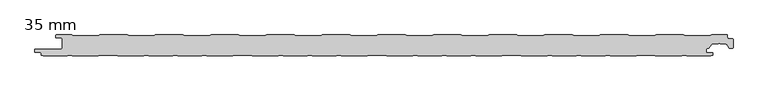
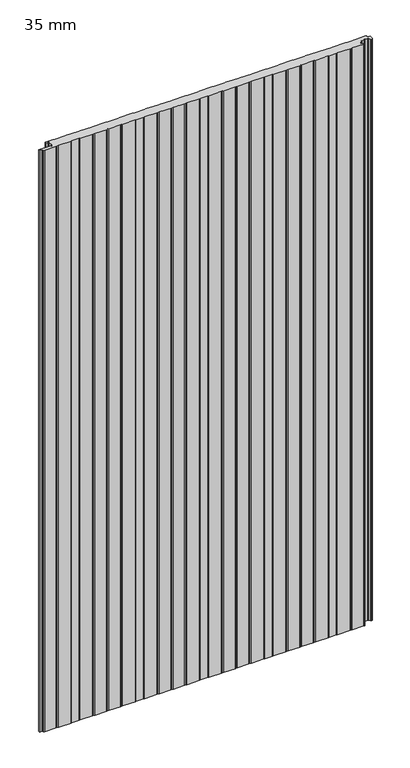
"""IFC4 building model written with IfcOpenShell, lengths in millimetres: plate geometry, HIANSA PANEL - H20.F02.002-PANELES DE FACHADA VERTICAL - PANEL PERFILADO - Panel de Muro Cortina : 35 mm."""

from ifc_helpers import new_model, si_unit, frame, origin, place, context, project, spatial, polyline, circle_curve, source, transform, mapped, element, save
from ifc_brep_helpers import plane_surface, cylinder_surface, revolved_surface, advanced_brep


def plate_35_mm_58eb28ae(model_context):
    return source(origin(), model_context, "Body", "AdvancedBrep", [
        advanced_brep(
        [(538.9050596, -33.8752798, 2100.0), (539.9655098, -32.5170803, 2100.0), (539.9655098, -29.8776596, 2100.0), (530.7999998, -29.8776596, 2100.0), (529.2999998, -28.3776596, 2100.0), (529.2999998, -24.1276596, 2100.0), (530.7999998, -22.6276596, 2100.0), (532.401303, -22.6276596, 2100.0), (533.630031, -21.9880243, 2100.0), (537.8715505, -15.9305067, 2100.0), (539.5098546, -15.0776596, 2100.0), (548.6062273, -15.0776596, 2100.0), (549.7990477, -14.3889845, 2100.0), (550.7990477, -14.3889845, 2100.0), (551.991868, -15.0776596, 2100.0), (561.0896683, -15.0776596, 2100.0), (562.7279724, -15.9305067, 2100.0), (566.9694918, -21.9880243, 2100.0), (568.1982199, -22.6276596, 2100.0), (571.5805695, -22.6276596, 2100.0), (573.0805695, -21.1276596, 2100.0), (573.0810464, -7.7494039, 2100.0), (572.0803311, -6.7486887, 2100.0), (565.9337882, -6.7486887, 2100.0), (563.9323512, -4.7472517, 2100.0), (563.9323512, -1.4941037, 2100.0), (562.9382476, -0.5, 2100.0), (538.0627765, -0.5, 2100.0), (535.0504226, -1.5005169, 2100.0), (494.888145, -1.5005169, 2100.0), (491.8865943, -0.5, 2100.0), (447.0519733, -0.5, 2100.0), (444.0504226, -1.5005169, 2100.0), (403.888145, -1.5005169, 2100.0), (400.8865943, -0.5, 2100.0), (356.0519733, -0.5, 2100.0), (353.0504226, -1.5005169, 2100.0), (312.888145, -1.5005169, 2100.0), (309.8865943, -0.5, 2100.0), (265.0519733, -0.5, 2100.0), (262.0504226, -1.5005169, 2100.0), (221.888145, -1.5005169, 2100.0), (218.8865943, -0.5, 2100.0), (174.0519733, -0.5, 2100.0), (171.0504226, -1.5005169, 2100.0), (130.888145, -1.5005169, 2100.0), (127.8865943, -0.5, 2100.0), (83.0519733, -0.5, 2100.0), (80.0504226, -1.5005169, 2100.0), (39.888145, -1.5005169, 2100.0), (36.8865943, -0.5, 2100.0), (-7.9480267, -0.5, 2100.0), (-10.9495774, -1.5005169, 2100.0), (-51.111855, -1.5005169, 2100.0), (-54.1134057, -0.5, 2100.0), (-98.9480267, -0.5, 2100.0), (-101.9495774, -1.5005169, 2100.0), (-142.111855, -1.5005169, 2100.0), (-145.1134057, -0.5, 2100.0), (-189.9480267, -0.5, 2100.0), (-192.9495774, -1.5005169, 2100.0), (-233.111855, -1.5005169, 2100.0), (-236.1134057, -0.5, 2100.0), (-280.9480267, -0.5, 2100.0), (-283.9495774, -1.5005169, 2100.0), (-324.111855, -1.5005169, 2100.0), (-327.1134057, -0.5, 2100.0), (-371.9480267, -0.5, 2100.0), (-374.9495774, -1.5005169, 2100.0), (-415.111855, -1.5005169, 2100.0), (-418.1134057, -0.5, 2100.0), (-462.9480267, -0.5, 2100.0), (-465.9495774, -1.5005169, 2100.0), (-506.111855, -1.5005169, 2100.0), (-509.1037329, -0.5, 2100.0), (-534.0319041, -0.5, 2100.0), (-535.0319599, -1.5000258, 2100.0), (-535.0322739, -4.4999967, 2100.0), (-534.0322682, -5.5000043, 2100.0), (-526.4181879, -5.5004096, 2100.0), (-524.3789536, -7.5396439, 2100.0), (-524.3789536, -21.3470846, 2100.0), (-526.9158188, -23.8839497, 2100.0), (-569.2000002, -23.8839497, 2100.0), (-569.2000002, -28.6276596, 2100.0), (-560.5344902, -28.6276596, 2100.0), (-559.0344903, -30.1276596, 2100.0), (-559.0344903, -32.5178943, 2100.0), (-557.9748297, -33.8750825, 2100.0), (-555.4751594, -34.5, 2100.0), (-516.3760428, -34.5, 2100.0), (-512.31449, -33.4846118, 2100.0), (-508.2529372, -34.5, 2100.0), (-465.1734067, -34.5, 2100.0), (-462.1734067, -33.5, 2100.0), (-436.899129, -33.5, 2100.0), (-433.899129, -34.5, 2100.0), (-390.8195984, -34.5, 2100.0), (-386.7580456, -33.4846118, 2100.0), (-382.6964928, -34.5, 2100.0), (-343.5973762, -34.5, 2100.0), (-339.5358234, -33.4846118, 2100.0), (-335.4742706, -34.5, 2100.0), (-296.375154, -34.5, 2100.0), (-292.3136012, -33.4846118, 2100.0), (-288.2520484, -34.5, 2100.0), (-245.1725179, -34.5, 2100.0), (-242.1725179, -33.5, 2100.0), (-216.8982402, -33.5, 2100.0), (-213.8982402, -34.5, 2100.0), (-170.8187096, -34.5, 2100.0), (-166.7571568, -33.4846118, 2100.0), (-162.695604, -34.5, 2100.0), (-123.5964874, -34.5, 2100.0), (-119.5349346, -33.4846118, 2100.0), (-115.4733818, -34.5, 2100.0), (-76.3742652, -34.5, 2100.0), (-72.3127124, -33.4846118, 2100.0), (-68.2511596, -34.5, 2100.0), (-25.1716291, -34.5, 2100.0), (-22.1716291, -33.5, 2100.0), (3.1026486, -33.5, 2100.0), (6.1026486, -34.5, 2100.0), (49.1821792, -34.5, 2100.0), (53.243732, -33.4846118, 2100.0), (57.3052848, -34.5, 2100.0), (96.4044014, -34.5, 2100.0), (100.4659542, -33.4846118, 2100.0), (104.527507, -34.5, 2100.0), (143.6266236, -34.5, 2100.0), (147.6881764, -33.4846118, 2100.0), (151.7497292, -34.5, 2100.0), (194.8292597, -34.5, 2100.0), (197.8292597, -33.5, 2100.0), (223.1035374, -33.5, 2100.0), (226.1035374, -34.5, 2100.0), (269.183068, -34.5, 2100.0), (273.2446208, -33.4846118, 2100.0), (277.3061736, -34.5, 2100.0), (316.4052902, -34.5, 2100.0), (320.466843, -33.4846118, 2100.0), (324.5283958, -34.5, 2100.0), (363.6275124, -34.5, 2100.0), (367.6890652, -33.4846118, 2100.0), (371.750618, -34.5, 2100.0), (414.8301485, -34.5, 2100.0), (417.8301485, -33.5, 2100.0), (443.1044262, -33.5, 2100.0), (446.1044262, -34.5, 2100.0), (489.1839568, -34.5, 2100.0), (493.2455096, -33.4846118, 2100.0), (497.3070624, -34.5, 2100.0), (536.406179, -34.5, 2100.0), (538.9050596, -33.8752798, 0.0), (536.406179, -34.5, 0.0), (497.3070624, -34.5, 0.0), (493.2455096, -33.4846118, 0.0), (489.1839568, -34.5, 0.0), (446.1044262, -34.5, 0.0), (443.1044262, -33.5, 0.0), (417.8301485, -33.5, 0.0), (414.8301485, -34.5, 0.0), (371.750618, -34.5, 0.0), (367.6890652, -33.4846118, 0.0), (363.6275124, -34.5, 0.0), (324.5283958, -34.5, 0.0), (320.466843, -33.4846118, 0.0), (316.4052902, -34.5, 0.0), (277.3061736, -34.5, 0.0), (273.2446208, -33.4846118, 0.0), (269.183068, -34.5, 0.0), (226.1035374, -34.5, 0.0), (223.1035374, -33.5, 0.0), (197.8292597, -33.5, 0.0), (194.8292597, -34.5, 0.0), (151.7497292, -34.5, 0.0), (147.6881764, -33.4846118, 0.0), (143.6266236, -34.5, 0.0), (104.527507, -34.5, 0.0), (100.4659542, -33.4846118, 0.0), (96.4044014, -34.5, 0.0), (57.3052848, -34.5, 0.0), (53.243732, -33.4846118, 0.0), (49.1821792, -34.5, 0.0), (6.1026486, -34.5, 0.0), (3.1026486, -33.5, 0.0), (-22.1716291, -33.5, 0.0), (-25.1716291, -34.5, 0.0), (-68.2511596, -34.5, 0.0), (-72.3127124, -33.4846118, 0.0), (-76.3742652, -34.5, 0.0), (-115.4733818, -34.5, 0.0), (-119.5349346, -33.4846118, 0.0), (-123.5964874, -34.5, 0.0), (-162.695604, -34.5, 0.0), (-166.7571568, -33.4846118, 0.0), (-170.8187096, -34.5, 0.0), (-213.8982402, -34.5, 0.0), (-216.8982402, -33.5, 0.0), (-242.1725179, -33.5, 0.0), (-245.1725179, -34.5, 0.0), (-288.2520484, -34.5, 0.0), (-292.3136012, -33.4846118, 0.0), (-296.375154, -34.5, 0.0), (-335.4742706, -34.5, 0.0), (-339.5358234, -33.4846118, 0.0), (-343.5973762, -34.5, 0.0), (-382.6964928, -34.5, 0.0), (-386.7580456, -33.4846118, 0.0), (-390.8195984, -34.5, 0.0), (-433.899129, -34.5, 0.0), (-436.899129, -33.5, 0.0), (-462.1734067, -33.5, 0.0), (-465.1734067, -34.5, 0.0), (-508.2529372, -34.5, 0.0), (-512.31449, -33.4846118, 0.0), (-516.3760428, -34.5, 0.0), (-555.4751594, -34.5, 0.0), (-557.9748297, -33.8750825, 0.0), (-559.0344903, -32.5178943, 0.0), (-559.0344903, -30.1276596, 0.0), (-560.5344902, -28.6276596, 0.0), (-569.2000002, -28.6276596, 0.0), (-569.2000002, -23.8839497, 0.0), (-526.9158188, -23.8839497, 0.0), (-524.3789536, -21.3470846, 0.0), (-524.3789536, -7.5396439, 0.0), (-526.4181879, -5.5004096, 0.0), (-534.0322682, -5.5004096, 0.0), (-535.0322739, -4.4999967, 0.0), (-535.0319599, -1.5000258, 0.0), (-534.0319041, -0.5, 0.0), (-509.1037329, -0.5, 0.0), (-506.111855, -1.5005169, 0.0), (-465.9495774, -1.5005169, 0.0), (-462.9480267, -0.5, 0.0), (-418.1134057, -0.5, 0.0), (-415.111855, -1.5005169, 0.0), (-374.9495774, -1.5005169, 0.0), (-371.9480267, -0.5, 0.0), (-327.1134057, -0.5, 0.0), (-324.111855, -1.5005169, 0.0), (-283.9495774, -1.5005169, 0.0), (-280.9480267, -0.5, 0.0), (-236.1134057, -0.5, 0.0), (-233.111855, -1.5005169, 0.0), (-192.9495774, -1.5005169, 0.0), (-189.9480267, -0.5, 0.0), (-145.1134057, -0.5, 0.0), (-142.111855, -1.5005169, 0.0), (-101.9495774, -1.5005169, 0.0), (-98.9480267, -0.5, 0.0), (-54.1134057, -0.5, 0.0), (-51.111855, -1.5005169, 0.0), (-10.9495774, -1.5005169, 0.0), (-7.9480267, -0.5, 0.0), (36.8865943, -0.5, 0.0), (39.888145, -1.5005169, 0.0), (80.0504226, -1.5005169, 0.0), (83.0519733, -0.5, 0.0), (127.8865943, -0.5, 0.0), (130.888145, -1.5005169, 0.0), (171.0504226, -1.5005169, 0.0), (174.0519733, -0.5, 0.0), (218.8865943, -0.5, 0.0), (221.888145, -1.5005169, 0.0), (262.0504226, -1.5005169, 0.0), (265.0519733, -0.5, 0.0), (309.8865943, -0.5, 0.0), (312.888145, -1.5005169, 0.0), (353.0504226, -1.5005169, 0.0), (356.0519733, -0.5, 0.0), (400.8865943, -0.5, 0.0), (403.888145, -1.5005169, 0.0), (444.0504226, -1.5005169, 0.0), (447.0519733, -0.5, 0.0), (491.8865943, -0.5, 0.0), (494.888145, -1.5005169, 0.0), (535.0504226, -1.5005169, 0.0), (538.0627765, -0.5, 0.0), (562.9382476, -0.5, 0.0), (563.9323512, -1.4941037, 0.0), (563.9323512, -4.7472517, 0.0), (565.9337882, -6.7486887, 0.0), (572.0803311, -6.7486887, 0.0), (573.0810464, -7.7494039, 0.0), (573.0810464, -21.1276596, 0.0), (571.5805695, -22.6276596, 0.0), (568.1982199, -22.6276596, 0.0), (566.9694918, -21.9880243, 0.0), (562.7279724, -15.9305067, 0.0), (561.0896683, -15.0776596, 0.0), (551.991868, -15.0776596, 0.0), (550.7990477, -14.3889845, 0.0), (549.7990477, -14.3889845, 0.0), (548.6062273, -15.0776596, 0.0), (539.5098546, -15.0776596, 0.0), (537.8715505, -15.9305067, 0.0), (533.630031, -21.9880243, 0.0), (532.401303, -22.6276596, 0.0), (530.7999998, -22.6276596, 0.0), (529.2999998, -24.1276596, 0.0), (529.2999998, -28.3776596, 0.0), (530.7999998, -29.8776596, 0.0), (539.9655098, -29.8776596, 0.0), (539.9655098, -32.5170803, 0.0)],
        [
            (0, 1, circle_curve(frame((538.5655098, -32.5170803, 2100.0), z_axis=(0.0, 0.0, 1.0), x_axis=(1.0, 0.0, 0.0)), 1.4)),
            (1, 2),
            (2, 3),
            (3, 4, circle_curve(frame((530.7999998, -28.3776596, 2100.0), z_axis=(0.0, 0.0, -1.0), x_axis=(1.0, 0.0, 0.0)), 1.5)),
            (4, 5),
            (5, 6, circle_curve(frame((530.7999998, -24.1276596, 2100.0), z_axis=(0.0, 0.0, -1.0), x_axis=(1.0, 0.0, 0.0)), 1.5)),
            (6, 7),
            (7, 8, circle_curve(frame((532.401303, -21.1276596, 2100.0), z_axis=(0.0, 0.0, 1.0), x_axis=(1.0, 0.0, 0.0)), 1.5)),
            (8, 9),
            (9, 10, circle_curve(frame((539.5098546, -17.0776596, 2100.0), z_axis=(0.0, 0.0, -1.0), x_axis=(1.0, 0.0, 0.0)), 2.0)),
            (10, 11),
            (11, 12),
            (12, 13, circle_curve(frame((550.2990477, -15.2550099, 2100.0), z_axis=(0.0, 0.0, -1.0), x_axis=(1.0, 0.0, 0.0)), 1.0)),
            (13, 14),
            (14, 15),
            (15, 16, circle_curve(frame((561.0896683, -17.0776596, 2100.0), z_axis=(0.0, 0.0, -1.0), x_axis=(1.0, 0.0, 0.0)), 2.0)),
            (16, 17),
            (17, 18, circle_curve(frame((568.1982199, -21.1276596, 2100.0), z_axis=(0.0, 0.0, 1.0), x_axis=(1.0, 0.0, 0.0)), 1.5)),
            (18, 19),
            (19, 20, circle_curve(frame((571.5805695, -21.1276596, 2100.0), z_axis=(0.0, 0.0, 1.0), x_axis=(1.0, 0.0, 0.0)), 1.5)),
            (20, 21),
            (21, 22, circle_curve(frame((572.0803311, -7.7494039, 2100.0), z_axis=(0.0, 0.0, 1.0), x_axis=(1.0, 0.0, 0.0)), 1.0007153)),
            (22, 23),
            (23, 24, circle_curve(frame((565.9337882, -4.7472517, 2100.0), z_axis=(0.0, 0.0, -1.0), x_axis=(1.0, 0.0, 0.0)), 2.0014369)),
            (24, 25),
            (25, 26, circle_curve(frame((562.9382476, -1.4941037, 2100.0), z_axis=(0.0, 0.0, 1.0), x_axis=(1.0, 0.0, 0.0)), 0.9941037)),
            (26, 27),
            (27, 28),
            (28, 29),
            (29, 30),
            (30, 31),
            (31, 32),
            (32, 33),
            (33, 34),
            (34, 35),
            (35, 36),
            (36, 37),
            (37, 38),
            (38, 39),
            (39, 40),
            (40, 41),
            (41, 42),
            (42, 43),
            (43, 44),
            (44, 45),
            (45, 46),
            (46, 47),
            (47, 48),
            (48, 49),
            (49, 50),
            (50, 51),
            (51, 52),
            (52, 53),
            (53, 54),
            (54, 55),
            (55, 56),
            (56, 57),
            (57, 58),
            (58, 59),
            (59, 60),
            (60, 61),
            (61, 62),
            (62, 63),
            (63, 64),
            (64, 65),
            (65, 66),
            (66, 67),
            (67, 68),
            (68, 69),
            (69, 70),
            (70, 71),
            (71, 72),
            (72, 73),
            (73, 74),
            (74, 75),
            (75, 76, circle_curve(frame((-534.0319041, -1.5000558, 2100.0), z_axis=(0.0, 0.0, 1.0), x_axis=(1.0, 0.0, 0.0)), 1.0000558)),
            (76, 77),
            (77, 78, circle_curve(frame((-534.0322682, -4.4999986, 2100.0), z_axis=(0.0, 0.0, 1.0), x_axis=(1.0, 0.0, 0.0)), 1.0000057)),
            (78, 79),
            (79, 80, circle_curve(frame((-526.4181879, -7.5396439, 2100.0), z_axis=(0.0, 0.0, -1.0), x_axis=(1.0, 0.0, 0.0)), 2.0392343)),
            (80, 81),
            (81, 82, circle_curve(frame((-526.9158188, -21.3470846, 2100.0), z_axis=(0.0, 0.0, -1.0), x_axis=(1.0, 0.0, 0.0)), 2.5368651)),
            (82, 83),
            (83, 84),
            (84, 85),
            (85, 86, circle_curve(frame((-560.5344902, -30.1276596, 2100.0), z_axis=(0.0, 0.0, -1.0), x_axis=(1.0, 0.0, 0.0)), 1.5)),
            (86, 87),
            (87, 88, circle_curve(frame((-557.6355327, -32.5178943, 2100.0), z_axis=(0.0, 0.0, 1.0), x_axis=(1.0, 0.0, 0.0)), 1.3989576)),
            (88, 89),
            (89, 90),
            (90, 91),
            (91, 92),
            (92, 93),
            (93, 94),
            (94, 95),
            (95, 96),
            (96, 97),
            (97, 98),
            (98, 99),
            (99, 100),
            (100, 101),
            (101, 102),
            (102, 103),
            (103, 104),
            (104, 105),
            (105, 106),
            (106, 107),
            (107, 108),
            (108, 109),
            (109, 110),
            (110, 111),
            (111, 112),
            (112, 113),
            (113, 114),
            (114, 115),
            (115, 116),
            (116, 117),
            (117, 118),
            (118, 119),
            (119, 120),
            (120, 121),
            (121, 122),
            (122, 123),
            (123, 124),
            (124, 125),
            (125, 126),
            (126, 127),
            (127, 128),
            (128, 129),
            (129, 130),
            (130, 131),
            (131, 132),
            (132, 133),
            (133, 134),
            (134, 135),
            (135, 136),
            (136, 137),
            (137, 138),
            (138, 139),
            (139, 140),
            (140, 141),
            (141, 142),
            (142, 143),
            (143, 144),
            (144, 145),
            (145, 146),
            (146, 147),
            (147, 148),
            (148, 149),
            (149, 150),
            (150, 151),
            (151, 152),
            (152, 0),
            (153, 154),
            (154, 155),
            (155, 156),
            (156, 157),
            (157, 158),
            (158, 159),
            (159, 160),
            (160, 161),
            (161, 162),
            (162, 163),
            (163, 164),
            (164, 165),
            (165, 166),
            (166, 167),
            (167, 168),
            (168, 169),
            (169, 170),
            (170, 171),
            (171, 172),
            (172, 173),
            (173, 174),
            (174, 175),
            (175, 176),
            (176, 177),
            (177, 178),
            (178, 179),
            (179, 180),
            (180, 181),
            (181, 182),
            (182, 183),
            (183, 184),
            (184, 185),
            (185, 186),
            (186, 187),
            (187, 188),
            (188, 189),
            (189, 190),
            (190, 191),
            (191, 192),
            (192, 193),
            (193, 194),
            (194, 195),
            (195, 196),
            (196, 197),
            (197, 198),
            (198, 199),
            (199, 200),
            (200, 201),
            (201, 202),
            (202, 203),
            (203, 204),
            (204, 205),
            (205, 206),
            (206, 207),
            (207, 208),
            (208, 209),
            (209, 210),
            (210, 211),
            (211, 212),
            (212, 213),
            (213, 214),
            (214, 215),
            (215, 216),
            (216, 217),
            (217, 218),
            (218, 219, circle_curve(frame((-557.6355327, -32.5178943, 0.0), z_axis=(0.0, 0.0, -1.0), x_axis=(1.0, 0.0, 0.0)), 1.3989576)),
            (219, 220),
            (220, 221, circle_curve(frame((-560.5344902, -30.1276596, 0.0), z_axis=(0.0, 0.0, 1.0), x_axis=(1.0, 0.0, 0.0)), 1.5)),
            (221, 222),
            (222, 223),
            (223, 224),
            (224, 225, circle_curve(frame((-526.9158188, -21.3470846, 0.0), z_axis=(0.0, 0.0, 1.0), x_axis=(1.0, 0.0, 0.0)), 2.5368651)),
            (225, 226),
            (226, 227, circle_curve(frame((-526.4181879, -7.5396439, 0.0), z_axis=(0.0, 0.0, 1.0), x_axis=(1.0, 0.0, 0.0)), 2.0392343)),
            (227, 228),
            (228, 229, circle_curve(frame((-534.0322682, -4.4999986, 0.0), z_axis=(0.0, 0.0, -1.0), x_axis=(1.0, 0.0, 0.0)), 1.0000057)),
            (229, 230),
            (230, 231, circle_curve(frame((-534.0319041, -1.5000558, 0.0), z_axis=(0.0, 0.0, -1.0), x_axis=(1.0, 0.0, 0.0)), 1.0000558)),
            (231, 232),
            (232, 233),
            (233, 234),
            (234, 235),
            (235, 236),
            (236, 237),
            (237, 238),
            (238, 239),
            (239, 240),
            (240, 241),
            (241, 242),
            (242, 243),
            (243, 244),
            (244, 245),
            (245, 246),
            (246, 247),
            (247, 248),
            (248, 249),
            (249, 250),
            (250, 251),
            (251, 252),
            (252, 253),
            (253, 254),
            (254, 255),
            (255, 256),
            (256, 257),
            (257, 258),
            (258, 259),
            (259, 260),
            (260, 261),
            (261, 262),
            (262, 263),
            (263, 264),
            (264, 265),
            (265, 266),
            (266, 267),
            (267, 268),
            (268, 269),
            (269, 270),
            (270, 271),
            (271, 272),
            (272, 273),
            (273, 274),
            (274, 275),
            (275, 276),
            (276, 277),
            (277, 278),
            (278, 279),
            (279, 280),
            (280, 281, circle_curve(frame((562.9382476, -1.4941037, 0.0), z_axis=(0.0, 0.0, -1.0), x_axis=(1.0, 0.0, 0.0)), 0.9941037)),
            (281, 282),
            (282, 283, circle_curve(frame((565.9337882, -4.7472517, 0.0), z_axis=(0.0, 0.0, 1.0), x_axis=(1.0, 0.0, 0.0)), 2.0014369)),
            (283, 284),
            (284, 285, circle_curve(frame((572.0803311, -7.7494039, 0.0), z_axis=(0.0, 0.0, -1.0), x_axis=(1.0, 0.0, 0.0)), 1.0007153)),
            (285, 286),
            (286, 287, circle_curve(frame((571.5805695, -21.1276596, 0.0), z_axis=(0.0, 0.0, -1.0), x_axis=(1.0, 0.0, 0.0)), 1.5)),
            (287, 288),
            (288, 289, circle_curve(frame((568.1982199, -21.1276596, 0.0), z_axis=(0.0, 0.0, -1.0), x_axis=(1.0, 0.0, 0.0)), 1.5)),
            (289, 290),
            (290, 291, circle_curve(frame((561.0896683, -17.0776596, 0.0), z_axis=(0.0, 0.0, 1.0), x_axis=(1.0, 0.0, 0.0)), 2.0)),
            (291, 292),
            (292, 293),
            (293, 294, circle_curve(frame((550.2990477, -15.2550099, 0.0), z_axis=(0.0, 0.0, 1.0), x_axis=(1.0, 0.0, 0.0)), 1.0)),
            (294, 295),
            (295, 296),
            (296, 297, circle_curve(frame((539.5098546, -17.0776596, 0.0), z_axis=(0.0, 0.0, 1.0), x_axis=(1.0, 0.0, 0.0)), 2.0)),
            (297, 298),
            (298, 299, circle_curve(frame((532.401303, -21.1276596, 0.0), z_axis=(0.0, 0.0, -1.0), x_axis=(1.0, 0.0, 0.0)), 1.5)),
            (299, 300),
            (300, 301, circle_curve(frame((530.7999998, -24.1276596, 0.0), z_axis=(0.0, 0.0, 1.0), x_axis=(1.0, 0.0, 0.0)), 1.5)),
            (301, 302),
            (302, 303, circle_curve(frame((530.7999998, -28.3776596, 0.0), z_axis=(0.0, 0.0, 1.0), x_axis=(1.0, 0.0, 0.0)), 1.5)),
            (303, 304),
            (304, 305),
            (305, 153, circle_curve(frame((538.5655098, -32.5170803, 0.0), z_axis=(0.0, 0.0, -1.0), x_axis=(1.0, 0.0, 0.0)), 1.4)),
            (88, 218),
            (217, 89),
            (87, 219),
            (86, 220),
            (85, 221),
            (84, 222),
            (83, 223),
            (82, 224),
            (81, 225),
            (80, 226),
            (79, 227),
            (78, 228),
            (25, 281),
            (280, 26),
            (24, 282),
            (23, 283),
            (21, 285),
            (284, 22),
            (20, 286),
            (19, 287),
            (18, 288),
            (17, 289),
            (16, 290),
            (15, 291),
            (9, 297),
            (296, 10),
            (8, 298),
            (7, 299),
            (6, 300),
            (5, 301),
            (4, 302),
            (3, 303),
            (2, 304),
            (1, 305),
            (0, 153),
            (152, 154),
            (151, 155),
            (150, 156),
            (149, 157),
            (148, 158),
            (147, 159),
            (146, 160),
            (145, 161),
            (144, 162),
            (143, 163),
            (142, 164),
            (141, 165),
            (140, 166),
            (139, 167),
            (138, 168),
            (137, 169),
            (136, 170),
            (135, 171),
            (134, 172),
            (133, 173),
            (132, 174),
            (131, 175),
            (130, 176),
            (129, 177),
            (128, 178),
            (127, 179),
            (126, 180),
            (125, 181),
            (124, 182),
            (123, 183),
            (122, 184),
            (121, 185),
            (120, 186),
            (119, 187),
            (118, 188),
            (117, 189),
            (116, 190),
            (115, 191),
            (114, 192),
            (113, 193),
            (112, 194),
            (111, 195),
            (110, 196),
            (109, 197),
            (108, 198),
            (107, 199),
            (106, 200),
            (105, 201),
            (104, 202),
            (103, 203),
            (102, 204),
            (101, 205),
            (100, 206),
            (99, 207),
            (98, 208),
            (97, 209),
            (96, 210),
            (95, 211),
            (94, 212),
            (93, 213),
            (92, 214),
            (91, 215),
            (90, 216),
            (74, 232),
            (231, 75),
            (73, 233),
            (72, 234),
            (71, 235),
            (70, 236),
            (69, 237),
            (68, 238),
            (67, 239),
            (66, 240),
            (65, 241),
            (64, 242),
            (63, 243),
            (62, 244),
            (61, 245),
            (60, 246),
            (59, 247),
            (58, 248),
            (57, 249),
            (56, 250),
            (55, 251),
            (54, 252),
            (53, 253),
            (52, 254),
            (51, 255),
            (50, 256),
            (49, 257),
            (48, 258),
            (47, 259),
            (46, 260),
            (45, 261),
            (44, 262),
            (43, 263),
            (42, 264),
            (41, 265),
            (40, 266),
            (39, 267),
            (38, 268),
            (37, 269),
            (36, 270),
            (35, 271),
            (34, 272),
            (33, 273),
            (32, 274),
            (31, 275),
            (30, 276),
            (29, 277),
            (28, 278),
            (27, 279),
            (14, 292),
            (13, 293),
            (12, 294),
            (11, 295),
            (77, 229),
            (76, 230),
        ],
        [
            plane_surface(frame((-550.0000002, 0.0, 2100.0), z_axis=(0.0, 0.0, 1.0), x_axis=(-1.0, 0.0, 0.0))),
            plane_surface(frame((-550.0000002, 0.0, 0.0), z_axis=(0.0, 0.0, -1.0), x_axis=(-1.0, 0.0, 0.0))),
            plane_surface(frame((-555.4751594, -34.5, 2100.0), z_axis=(-0.2425356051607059, -0.9701425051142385, 0.0), x_axis=(0.0, 0.0, -1.0))),
            cylinder_surface(frame((-557.6355327, -32.5178943, 2100.0), z_axis=(0.0, 0.0, 1.0), x_axis=(1.0, 0.0, 0.0)), 1.3989576),
            plane_surface(frame((-559.0344903, -32.5178943, 2100.0), z_axis=(-1.0, 0.0, 0.0), x_axis=(0.0, 0.0, -1.0))),
            revolved_surface(polyline([(-559.0344902, -30.1276596, 0.0), (-559.0344902, -30.1276596, 2100.0)]), (-560.5344902, -30.1276596, 2100.0), (0.0, 0.0, -1.0)),
            plane_surface(frame((-560.5344902, -28.6276596, 2100.0), z_axis=(0.0, -1.0, 0.0), x_axis=(0.0, 0.0, -1.0))),
            plane_surface(frame((-569.2000002, -28.6276596, 2100.0), z_axis=(-1.0, 0.0, 0.0), x_axis=(0.0, 0.0, -1.0))),
            plane_surface(frame((-569.2000002, -23.8839497, 2100.0), z_axis=(0.0, 1.0, 0.0), x_axis=(0.0, 0.0, -1.0))),
            revolved_surface(polyline([(-524.3789537, -21.3470846, 0.0), (-524.3789537, -21.3470846, 2100.0)]), (-526.9158188, -21.3470846, 2100.0), (0.0, 0.0, -1.0)),
            plane_surface(frame((-524.3789536, -21.3470846, 2100.0), z_axis=(-1.0, 0.0, 0.0), x_axis=(0.0, 0.0, -1.0))),
            revolved_surface(polyline([(-524.3789536, -7.5396439, 0.0), (-524.3789536, -7.5396439, 2100.0)]), (-526.4181879, -7.5396439, 2100.0), (0.0, 0.0, -1.0)),
            plane_surface(frame((-526.4181879, -5.5004096, 2100.0), z_axis=(0.0, -1.0, 0.0), x_axis=(0.0, 0.0, -1.0))),
            cylinder_surface(frame((562.9382476, -1.4941037, 2100.0), z_axis=(0.0, 0.0, 1.0), x_axis=(1.0, 0.0, 0.0)), 0.9941037),
            plane_surface(frame((563.9323512, -1.4941037, 2100.0), z_axis=(1.0, 0.0, 0.0), x_axis=(0.0, 0.0, -1.0))),
            revolved_surface(polyline([(567.9352251, -4.7472517, 0.0), (567.9352251, -4.7472517, 2100.0)]), (565.9337882, -4.7472517, 2100.0), (0.0, 0.0, -1.0)),
            cylinder_surface(frame((572.0803311, -7.7494039, 2100.0), z_axis=(0.0, 0.0, 1.0), x_axis=(1.0, 0.0, 0.0)), 1.0007153),
            plane_surface(frame((573.0810464, -7.7494039, 2100.0), z_axis=(1.0, 0.0, 0.0), x_axis=(0.0, 0.0, -1.0))),
            cylinder_surface(frame((571.5805695, -21.1276596, 2100.0), z_axis=(0.0, 0.0, 1.0), x_axis=(1.0, 0.0, 0.0)), 1.5),
            plane_surface(frame((571.5805695, -22.6276596, 2100.0), z_axis=(0.0, -1.0, 0.0), x_axis=(0.0, 0.0, -1.0))),
            cylinder_surface(frame((568.1982199, -21.1276596, 2100.0), z_axis=(0.0, 0.0, 1.0), x_axis=(1.0, 0.0, 0.0)), 1.5),
            plane_surface(frame((566.9694918, -21.9880243, 2100.0), z_axis=(-0.8191520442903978, -0.5735764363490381, 0.0), x_axis=(0.0, 0.0, -1.0))),
            revolved_surface(polyline([(563.0896683, -17.0776596, 0.0), (563.0896683, -17.0776596, 2100.0)]), (561.0896683, -17.0776596, 2100.0), (0.0, 0.0, -1.0)),
            revolved_surface(polyline([(541.5098546, -17.0776596, 0.0), (541.5098546, -17.0776596, 2100.0)]), (539.5098546, -17.0776596, 2100.0), (0.0, 0.0, -1.0)),
            plane_surface(frame((537.8715505, -15.9305067, 2100.0), z_axis=(0.8191520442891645, -0.5735764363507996, 0.0), x_axis=(0.0, 0.0, -1.0))),
            cylinder_surface(frame((532.401303, -21.1276596, 2100.0), z_axis=(0.0, 0.0, 1.0), x_axis=(1.0, 0.0, 0.0)), 1.5),
            plane_surface(frame((532.401303, -22.6276596, 2100.0), z_axis=(0.0, -1.0, 0.0), x_axis=(0.0, 0.0, -1.0))),
            revolved_surface(polyline([(532.2999998, -24.1276596, 0.0), (532.2999998, -24.1276596, 2100.0)]), (530.7999998, -24.1276596, 2100.0), (0.0, 0.0, -1.0)),
            plane_surface(frame((529.2999998, -24.1276596, 2100.0), z_axis=(1.0, 0.0, 0.0), x_axis=(0.0, 0.0, -1.0))),
            revolved_surface(polyline([(532.2999998, -28.3776596, 0.0), (532.2999998, -28.3776596, 2100.0)]), (530.7999998, -28.3776596, 2100.0), (0.0, 0.0, -1.0)),
            plane_surface(frame((530.7999998, -29.8776596, 2100.0), z_axis=(0.0, 1.0, 0.0), x_axis=(0.0, 0.0, -1.0))),
            plane_surface(frame((539.9655098, -29.8776596, 2100.0), z_axis=(1.0, 0.0, 0.0), x_axis=(0.0, 0.0, -1.0))),
            cylinder_surface(frame((538.5655098, -32.5170803, 2100.0), z_axis=(0.0, 0.0, 1.0), x_axis=(1.0, 0.0, 0.0)), 1.4),
            plane_surface(frame((538.9050596, -33.8752798, 2100.0), z_axis=(0.2425356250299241, -0.9701425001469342, 0.0), x_axis=(0.0, 0.0, -1.0))),
            plane_surface(frame((565.9337882, -6.7486887, 2100.0), z_axis=(0.0, 1.0, 0.0), x_axis=(0.0, 0.0, -1.0))),
            plane_surface(frame((536.406179, -34.5, 2100.0), z_axis=(0.0, -1.0, 0.0), x_axis=(0.0, 0.0, -1.0))),
            plane_surface(frame((497.3070624, -34.5, 2100.0), z_axis=(-0.24253562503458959, -0.9701425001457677, 0.0), x_axis=(0.0, 0.0, -1.0))),
            plane_surface(frame((493.2455096, -33.4846118, 2100.0), z_axis=(0.24253562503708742, -0.9701425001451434, 0.0), x_axis=(0.0, 0.0, -1.0))),
            plane_surface(frame((489.1839568, -34.5, 2100.0), z_axis=(0.0, -1.0, 0.0), x_axis=(0.0, 0.0, -1.0))),
            plane_surface(frame((446.1044262, -34.5, 2100.0), z_axis=(-0.3162277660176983, -0.948683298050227, 0.0), x_axis=(0.0, 0.0, -1.0))),
            plane_surface(frame((443.1044262, -33.5, 2100.0), z_axis=(0.0, -1.0, 0.0), x_axis=(0.0, 0.0, -1.0))),
            plane_surface(frame((417.8301485, -33.5, 2100.0), z_axis=(0.3162277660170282, -0.9486832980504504, 0.0), x_axis=(0.0, 0.0, -1.0))),
            plane_surface(frame((414.8301485, -34.5, 2100.0), z_axis=(0.0, -1.0, 0.0), x_axis=(0.0, 0.0, -1.0))),
            plane_surface(frame((371.750618, -34.5, 2100.0), z_axis=(-0.24253562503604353, -0.9701425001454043, 0.0), x_axis=(0.0, 0.0, -1.0))),
            plane_surface(frame((367.6890652, -33.4846118, 2100.0), z_axis=(0.24253562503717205, -0.9701425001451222, 0.0), x_axis=(0.0, 0.0, -1.0))),
            plane_surface(frame((363.6275124, -34.5, 2100.0), z_axis=(0.0, -1.0, 0.0), x_axis=(0.0, 0.0, -1.0))),
            plane_surface(frame((324.5283958, -34.5, 2100.0), z_axis=(-0.2425356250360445, -0.970142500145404, 0.0), x_axis=(0.0, 0.0, -1.0))),
            plane_surface(frame((320.466843, -33.4846118, 2100.0), z_axis=(0.24253562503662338, -0.9701425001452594, 0.0), x_axis=(0.0, 0.0, -1.0))),
            plane_surface(frame((316.4052902, -34.5, 2100.0), z_axis=(0.0, -1.0, 0.0), x_axis=(0.0, 0.0, -1.0))),
            plane_surface(frame((277.3061736, -34.5, 2100.0), z_axis=(-0.2425356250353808, -0.97014250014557, 0.0), x_axis=(0.0, 0.0, -1.0))),
            plane_surface(frame((273.2446208, -33.4846118, 2100.0), z_axis=(0.24253562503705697, -0.9701425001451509, 0.0), x_axis=(0.0, 0.0, -1.0))),
            plane_surface(frame((269.183068, -34.5, 2100.0), z_axis=(0.0, -1.0, 0.0), x_axis=(0.0, 0.0, -1.0))),
            plane_surface(frame((226.1035374, -34.5, 2100.0), z_axis=(-0.31622776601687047, -0.948683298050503, 0.0), x_axis=(0.0, 0.0, -1.0))),
            plane_surface(frame((223.1035374, -33.5, 2100.0), z_axis=(0.0, -1.0, 0.0), x_axis=(0.0, 0.0, -1.0))),
            plane_surface(frame((197.8292597, -33.5, 2100.0), z_axis=(0.31622776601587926, -0.9486832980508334, 0.0), x_axis=(0.0, 0.0, -1.0))),
            plane_surface(frame((194.8292597, -34.5, 2100.0), z_axis=(0.0, -1.0, 0.0), x_axis=(0.0, 0.0, -1.0))),
            plane_surface(frame((151.7497292, -34.5, 2100.0), z_axis=(-0.24253562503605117, -0.9701425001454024, 0.0), x_axis=(0.0, 0.0, -1.0))),
            plane_surface(frame((147.6881764, -33.4846118, 2100.0), z_axis=(0.24253562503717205, -0.9701425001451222, 0.0), x_axis=(0.0, 0.0, -1.0))),
            plane_surface(frame((143.6266236, -34.5, 2100.0), z_axis=(0.0, -1.0, 0.0), x_axis=(0.0, 0.0, -1.0))),
            plane_surface(frame((104.527507, -34.5, 2100.0), z_axis=(-0.24253562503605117, -0.9701425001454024, 0.0), x_axis=(0.0, 0.0, -1.0))),
            plane_surface(frame((100.4659542, -33.4846118, 2100.0), z_axis=(0.24253562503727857, -0.9701425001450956, 0.0), x_axis=(0.0, 0.0, -1.0))),
            plane_surface(frame((96.4044014, -34.5, 2100.0), z_axis=(0.0, -1.0, 0.0), x_axis=(0.0, 0.0, -1.0))),
            plane_surface(frame((57.3052848, -34.5, 2100.0), z_axis=(-0.24253562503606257, -0.9701425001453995, 0.0), x_axis=(0.0, 0.0, -1.0))),
            plane_surface(frame((53.243732, -33.4846118, 2100.0), z_axis=(0.24253562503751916, -0.9701425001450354, 0.0), x_axis=(0.0, 0.0, -1.0))),
            plane_surface(frame((49.1821792, -34.5, 2100.0), z_axis=(0.0, -1.0, 0.0), x_axis=(0.0, 0.0, -1.0))),
            plane_surface(frame((6.1026486, -34.5, 2100.0), z_axis=(-0.31622776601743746, -0.948683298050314, 0.0), x_axis=(0.0, 0.0, -1.0))),
            plane_surface(frame((3.1026486, -33.5, 2100.0), z_axis=(0.0, -1.0, 0.0), x_axis=(0.0, 0.0, -1.0))),
            plane_surface(frame((-22.1716291, -33.5, 2100.0), z_axis=(0.31622776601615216, -0.9486832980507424, 0.0), x_axis=(0.0, 0.0, -1.0))),
            plane_surface(frame((-25.1716291, -34.5, 2100.0), z_axis=(0.0, -1.0, 0.0), x_axis=(0.0, 0.0, -1.0))),
            plane_surface(frame((-68.2511596, -34.5, 2100.0), z_axis=(-0.24253562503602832, -0.970142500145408, 0.0), x_axis=(0.0, 0.0, -1.0))),
            plane_surface(frame((-72.3127124, -33.4846118, 2100.0), z_axis=(0.24253562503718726, -0.9701425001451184, 0.0), x_axis=(0.0, 0.0, -1.0))),
            plane_surface(frame((-76.3742652, -34.5, 2100.0), z_axis=(0.0, -1.0, 0.0), x_axis=(0.0, 0.0, -1.0))),
            plane_surface(frame((-115.4733818, -34.5, 2100.0), z_axis=(-0.24253562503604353, -0.9701425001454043, 0.0), x_axis=(0.0, 0.0, -1.0))),
            plane_surface(frame((-119.5349346, -33.4846118, 2100.0), z_axis=(0.24253562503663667, -0.970142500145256, 0.0), x_axis=(0.0, 0.0, -1.0))),
            plane_surface(frame((-123.5964874, -34.5, 2100.0), z_axis=(0.0, -1.0, 0.0), x_axis=(0.0, 0.0, -1.0))),
            plane_surface(frame((-162.695604, -34.5, 2100.0), z_axis=(-0.24253562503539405, -0.9701425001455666, 0.0), x_axis=(0.0, 0.0, -1.0))),
            plane_surface(frame((-166.7571568, -33.4846118, 2100.0), z_axis=(0.2425356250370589, -0.9701425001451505, 0.0), x_axis=(0.0, 0.0, -1.0))),
            plane_surface(frame((-170.8187096, -34.5, 2100.0), z_axis=(0.0, -1.0, 0.0), x_axis=(0.0, 0.0, -1.0))),
            plane_surface(frame((-213.8982402, -34.5, 2100.0), z_axis=(-0.316227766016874, -0.9486832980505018, 0.0), x_axis=(0.0, 0.0, -1.0))),
            plane_surface(frame((-216.8982402, -33.5, 2100.0), z_axis=(0.0, -1.0, 0.0), x_axis=(0.0, 0.0, -1.0))),
            plane_surface(frame((-242.1725179, -33.5, 2100.0), z_axis=(0.3162277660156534, -0.9486832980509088, 0.0), x_axis=(0.0, 0.0, -1.0))),
            plane_surface(frame((-245.1725179, -34.5, 2100.0), z_axis=(0.0, -1.0, 0.0), x_axis=(0.0, 0.0, -1.0))),
            plane_surface(frame((-288.2520484, -34.5, 2100.0), z_axis=(-0.24253562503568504, -0.9701425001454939, 0.0), x_axis=(0.0, 0.0, -1.0))),
            plane_surface(frame((-292.3136012, -33.4846118, 2100.0), z_axis=(0.24253562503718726, -0.9701425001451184, 0.0), x_axis=(0.0, 0.0, -1.0))),
            plane_surface(frame((-296.375154, -34.5, 2100.0), z_axis=(0.0, -1.0, 0.0), x_axis=(0.0, 0.0, -1.0))),
            plane_surface(frame((-335.4742706, -34.5, 2100.0), z_axis=(-0.24253562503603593, -0.9701425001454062, 0.0), x_axis=(0.0, 0.0, -1.0))),
            plane_surface(frame((-339.5358234, -33.4846118, 2100.0), z_axis=(0.24253562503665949, -0.9701425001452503, 0.0), x_axis=(0.0, 0.0, -1.0))),
            plane_surface(frame((-343.5973762, -34.5, 2100.0), z_axis=(0.0, -1.0, 0.0), x_axis=(0.0, 0.0, -1.0))),
            plane_surface(frame((-382.6964928, -34.5, 2100.0), z_axis=(-0.24253562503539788, -0.9701425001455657, 0.0), x_axis=(0.0, 0.0, -1.0))),
            plane_surface(frame((-386.7580456, -33.4846118, 2100.0), z_axis=(0.24253562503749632, -0.9701425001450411, 0.0), x_axis=(0.0, 0.0, -1.0))),
            plane_surface(frame((-390.8195984, -34.5, 2100.0), z_axis=(0.0, -1.0, 0.0), x_axis=(0.0, 0.0, -1.0))),
            plane_surface(frame((-433.899129, -34.5, 2100.0), z_axis=(-0.3162277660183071, -0.9486832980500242, 0.0), x_axis=(0.0, 0.0, -1.0))),
            plane_surface(frame((-436.899129, -33.5, 2100.0), z_axis=(0.0, -1.0, 0.0), x_axis=(0.0, 0.0, -1.0))),
            plane_surface(frame((-462.1734067, -33.5, 2100.0), z_axis=(0.31622776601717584, -0.9486832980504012, 0.0), x_axis=(0.0, 0.0, -1.0))),
            plane_surface(frame((-465.1734067, -34.5, 2100.0), z_axis=(0.0, -1.0, 0.0), x_axis=(0.0, 0.0, -1.0))),
            plane_surface(frame((-508.2529372, -34.5, 2100.0), z_axis=(-0.24253562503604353, -0.9701425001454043, 0.0), x_axis=(0.0, 0.0, -1.0))),
            plane_surface(frame((-512.31449, -33.4846118, 2100.0), z_axis=(0.24253562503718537, -0.9701425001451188, 0.0), x_axis=(0.0, 0.0, -1.0))),
            plane_surface(frame((-516.3760428, -34.5, 2100.0), z_axis=(0.0, -1.0, 0.0), x_axis=(0.0, 0.0, -1.0))),
            plane_surface(frame((-534.0319041, -0.5, 2100.0), z_axis=(0.0, 1.0, 0.0), x_axis=(0.0, 0.0, -1.0))),
            plane_surface(frame((-509.1037329, -0.5, 2100.0), z_axis=(0.31714744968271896, 0.9483762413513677, 0.0), x_axis=(0.0, 0.0, -1.0))),
            plane_surface(frame((-506.111855, -1.5005169, 2100.0), z_axis=(0.0, 1.0, 0.0), x_axis=(0.0, 0.0, -1.0))),
            plane_surface(frame((-465.9495774, -1.5005169, 2100.0), z_axis=(-0.316227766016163, 0.9486832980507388, 0.0), x_axis=(0.0, 0.0, -1.0))),
            plane_surface(frame((-462.9480267, -0.5, 2100.0), z_axis=(0.0, 1.0, 0.0), x_axis=(0.0, 0.0, -1.0))),
            plane_surface(frame((-418.1134057, -0.5, 2100.0), z_axis=(0.316227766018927, 0.9486832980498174, 0.0), x_axis=(0.0, 0.0, -1.0))),
            plane_surface(frame((-415.111855, -1.5005169, 2100.0), z_axis=(0.0, 1.0, 0.0), x_axis=(0.0, 0.0, -1.0))),
            plane_surface(frame((-374.9495774, -1.5005169, 2100.0), z_axis=(-0.316227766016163, 0.9486832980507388, 0.0), x_axis=(0.0, 0.0, -1.0))),
            plane_surface(frame((-371.9480267, -0.5, 2100.0), z_axis=(0.0, 1.0, 0.0), x_axis=(0.0, 0.0, -1.0))),
            plane_surface(frame((-327.1134057, -0.5, 2100.0), z_axis=(0.316227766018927, 0.9486832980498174, 0.0), x_axis=(0.0, 0.0, -1.0))),
            plane_surface(frame((-324.111855, -1.5005169, 2100.0), z_axis=(0.0, 1.0, 0.0), x_axis=(0.0, 0.0, -1.0))),
            plane_surface(frame((-283.9495774, -1.5005169, 2100.0), z_axis=(-0.3162277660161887, 0.9486832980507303, 0.0), x_axis=(0.0, 0.0, -1.0))),
            plane_surface(frame((-280.9480267, -0.5, 2100.0), z_axis=(0.0, 1.0, 0.0), x_axis=(0.0, 0.0, -1.0))),
            plane_surface(frame((-236.1134057, -0.5, 2100.0), z_axis=(0.31622776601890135, 0.9486832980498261, 0.0), x_axis=(0.0, 0.0, -1.0))),
            plane_surface(frame((-233.111855, -1.5005169, 2100.0), z_axis=(0.0, 1.0, 0.0), x_axis=(0.0, 0.0, -1.0))),
            plane_surface(frame((-192.9495774, -1.5005169, 2100.0), z_axis=(-0.316227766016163, 0.9486832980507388, 0.0), x_axis=(0.0, 0.0, -1.0))),
            plane_surface(frame((-189.9480267, -0.5, 2100.0), z_axis=(0.0, 1.0, 0.0), x_axis=(0.0, 0.0, -1.0))),
            plane_surface(frame((-145.1134057, -0.5, 2100.0), z_axis=(0.316227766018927, 0.9486832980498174, 0.0), x_axis=(0.0, 0.0, -1.0))),
            plane_surface(frame((-142.111855, -1.5005169, 2100.0), z_axis=(0.0, 1.0, 0.0), x_axis=(0.0, 0.0, -1.0))),
            plane_surface(frame((-101.9495774, -1.5005169, 2100.0), z_axis=(-0.316227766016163, 0.9486832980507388, 0.0), x_axis=(0.0, 0.0, -1.0))),
            plane_surface(frame((-98.9480267, -0.5, 2100.0), z_axis=(0.0, 1.0, 0.0), x_axis=(0.0, 0.0, -1.0))),
            plane_surface(frame((-54.1134057, -0.5, 2100.0), z_axis=(0.3162277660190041, 0.9486832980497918, 0.0), x_axis=(0.0, 0.0, -1.0))),
            plane_surface(frame((-51.111855, -1.5005169, 2100.0), z_axis=(0.0, 1.0, 0.0), x_axis=(0.0, 0.0, -1.0))),
            plane_surface(frame((-10.9495774, -1.5005169, 2100.0), z_axis=(-0.316227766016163, 0.9486832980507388, 0.0), x_axis=(0.0, 0.0, -1.0))),
            plane_surface(frame((-7.9480267, -0.5, 2100.0), z_axis=(0.0, 1.0, 0.0), x_axis=(0.0, 0.0, -1.0))),
            plane_surface(frame((36.8865943, -0.5, 2100.0), z_axis=(0.3162277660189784, 0.9486832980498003, 0.0), x_axis=(0.0, 0.0, -1.0))),
            plane_surface(frame((39.888145, -1.5005169, 2100.0), z_axis=(0.0, 1.0, 0.0), x_axis=(0.0, 0.0, -1.0))),
            plane_surface(frame((80.0504226, -1.5005169, 2100.0), z_axis=(-0.3162277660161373, 0.9486832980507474, 0.0), x_axis=(0.0, 0.0, -1.0))),
            plane_surface(frame((83.0519733, -0.5, 2100.0), z_axis=(0.0, 1.0, 0.0), x_axis=(0.0, 0.0, -1.0))),
            plane_surface(frame((127.8865943, -0.5, 2100.0), z_axis=(0.3162277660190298, 0.9486832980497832, 0.0), x_axis=(0.0, 0.0, -1.0))),
            plane_surface(frame((130.888145, -1.5005169, 2100.0), z_axis=(0.0, 1.0, 0.0), x_axis=(0.0, 0.0, -1.0))),
            plane_surface(frame((171.0504226, -1.5005169, 2100.0), z_axis=(-0.316227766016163, 0.9486832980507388, 0.0), x_axis=(0.0, 0.0, -1.0))),
            plane_surface(frame((174.0519733, -0.5, 2100.0), z_axis=(0.0, 1.0, 0.0), x_axis=(0.0, 0.0, -1.0))),
            plane_surface(frame((218.8865943, -0.5, 2100.0), z_axis=(0.3162277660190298, 0.9486832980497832, 0.0), x_axis=(0.0, 0.0, -1.0))),
            plane_surface(frame((221.888145, -1.5005169, 2100.0), z_axis=(0.0, 1.0, 0.0), x_axis=(0.0, 0.0, -1.0))),
            plane_surface(frame((262.0504226, -1.5005169, 2100.0), z_axis=(-0.316227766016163, 0.9486832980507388, 0.0), x_axis=(0.0, 0.0, -1.0))),
            plane_surface(frame((265.0519733, -0.5, 2100.0), z_axis=(0.0, 1.0, 0.0), x_axis=(0.0, 0.0, -1.0))),
            plane_surface(frame((309.8865943, -0.5, 2100.0), z_axis=(0.3162277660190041, 0.9486832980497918, 0.0), x_axis=(0.0, 0.0, -1.0))),
            plane_surface(frame((312.888145, -1.5005169, 2100.0), z_axis=(0.0, 1.0, 0.0), x_axis=(0.0, 0.0, -1.0))),
            plane_surface(frame((353.0504226, -1.5005169, 2100.0), z_axis=(-0.3162277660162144, 0.9486832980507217, 0.0), x_axis=(0.0, 0.0, -1.0))),
            plane_surface(frame((356.0519733, -0.5, 2100.0), z_axis=(0.0, 1.0, 0.0), x_axis=(0.0, 0.0, -1.0))),
            plane_surface(frame((400.8865943, -0.5, 2100.0), z_axis=(0.3162277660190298, 0.9486832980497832, 0.0), x_axis=(0.0, 0.0, -1.0))),
            plane_surface(frame((403.888145, -1.5005169, 2100.0), z_axis=(0.0, 1.0, 0.0), x_axis=(0.0, 0.0, -1.0))),
            plane_surface(frame((444.0504226, -1.5005169, 2100.0), z_axis=(-0.3162277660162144, 0.9486832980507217, 0.0), x_axis=(0.0, 0.0, -1.0))),
            plane_surface(frame((447.0519733, -0.5, 2100.0), z_axis=(0.0, 1.0, 0.0), x_axis=(0.0, 0.0, -1.0))),
            plane_surface(frame((491.8865943, -0.5, 2100.0), z_axis=(0.3162277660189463, 0.9486832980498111, 0.0), x_axis=(0.0, 0.0, -1.0))),
            plane_surface(frame((494.888145, -1.5005169, 2100.0), z_axis=(0.0, 1.0, 0.0), x_axis=(0.0, 0.0, -1.0))),
            plane_surface(frame((535.0504226, -1.5005169, 2100.0), z_axis=(-0.31520653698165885, 0.9490230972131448, 0.0), x_axis=(0.0, 0.0, -1.0))),
            plane_surface(frame((538.0627765, -0.5, 2100.0), z_axis=(0.0, 1.0, 0.0), x_axis=(0.0, 0.0, -1.0))),
            plane_surface(frame((561.0896683, -15.0776596, 2100.0), z_axis=(1.5379240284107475e-12, -1.0, 0.0), x_axis=(0.0, 0.0, -1.0))),
            plane_surface(frame((551.991868, -15.0776596, 2100.0), z_axis=(-0.49999999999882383, -0.8660254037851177, 0.0), x_axis=(0.0, 0.0, -1.0))),
            revolved_surface(polyline([(551.2990477, -15.2550099, 0.0), (551.2990477, -15.2550099, 2100.0)]), (550.2990477, -15.2550099, 2100.0), (0.0, 0.0, -1.0)),
            plane_surface(frame((549.7990477, -14.3889845, 2100.0), z_axis=(0.4999999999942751, -0.8660254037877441, 0.0), x_axis=(0.0, 0.0, -1.0))),
            plane_surface(frame((548.6062273, -15.0776596, 2100.0), z_axis=(1.2816887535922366e-12, -1.0, 0.0), x_axis=(0.0, 0.0, -1.0))),
            cylinder_surface(frame((-534.0322682, -4.4999986, 2100.0), z_axis=(0.0, 0.0, 1.0), x_axis=(1.0, 0.0, 0.0)), 1.0000057),
            plane_surface(frame((-535.0322739, -4.4999967, 2100.0), z_axis=(-0.9999999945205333, 0.00010468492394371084, 0.0), x_axis=(0.0, 0.0, -1.0))),
            cylinder_surface(frame((-534.0319041, -1.5000558, 2100.0), z_axis=(0.0, 0.0, 1.0), x_axis=(1.0, 0.0, 0.0)), 1.0000558),
        ],
        [
            (0, [[1, 2, 3, 4, 5, 6, 7, 8, 9, 10, 11, 12, 13, 14, 15, 16, 17, 18, 19, 20, 21, 22, 23, 24, 25, 26, 27, 28, 29, 30, 31, 32, 33, 34, 35, 36, 37, 38, 39, 40, 41, 42, 43, 44, 45, 46, 47, 48, 49, 50, 51, 52, 53, 54, 55, 56, 57, 58, 59, 60, 61, 62, 63, 64, 65, 66, 67, 68, 69, 70, 71, 72, 73, 74, 75, 76, 77, 78, 79, 80, 81, 82, 83, 84, 85, 86, 87, 88, 89, 90, 91, 92, 93, 94, 95, 96, 97, 98, 99, 100, 101, 102, 103, 104, 105, 106, 107, 108, 109, 110, 111, 112, 113, 114, 115, 116, 117, 118, 119, 120, 121, 122, 123, 124, 125, 126, 127, 128, 129, 130, 131, 132, 133, 134, 135, 136, 137, 138, 139, 140, 141, 142, 143, 144, 145, 146, 147, 148, 149, 150, 151, 152, 153]]),
            (1, [[154, 155, 156, 157, 158, 159, 160, 161, 162, 163, 164, 165, 166, 167, 168, 169, 170, 171, 172, 173, 174, 175, 176, 177, 178, 179, 180, 181, 182, 183, 184, 185, 186, 187, 188, 189, 190, 191, 192, 193, 194, 195, 196, 197, 198, 199, 200, 201, 202, 203, 204, 205, 206, 207, 208, 209, 210, 211, 212, 213, 214, 215, 216, 217, 218, 219, 220, 221, 222, 223, 224, 225, 226, 227, 228, 229, 230, 231, 232, 233, 234, 235, 236, 237, 238, 239, 240, 241, 242, 243, 244, 245, 246, 247, 248, 249, 250, 251, 252, 253, 254, 255, 256, 257, 258, 259, 260, 261, 262, 263, 264, 265, 266, 267, 268, 269, 270, 271, 272, 273, 274, 275, 276, 277, 278, 279, 280, 281, 282, 283, 284, 285, 286, 287, 288, 289, 290, 291, 292, 293, 294, 295, 296, 297, 298, 299, 300, 301, 302, 303, 304, 305, 306]]),
            (2, [[307, -218, 308, -89]]),
            (3, [[309, -219, -307, -88]]),
            (4, [[310, -220, -309, -87]]),
            (5, [[311, -221, -310, -86]]),
            (6, [[312, -222, -311, -85]]),
            (7, [[313, -223, -312, -84]]),
            (8, [[314, -224, -313, -83]]),
            (9, [[315, -225, -314, -82]]),
            (10, [[316, -226, -315, -81]]),
            (11, [[317, -227, -316, -80]]),
            (12, [[318, -228, -317, -79]]),
            (13, [[319, -281, 320, -26]]),
            (14, [[321, -282, -319, -25]]),
            (15, [[322, -283, -321, -24]]),
            (16, [[323, -285, 324, -22]]),
            (17, [[325, -286, -323, -21]]),
            (18, [[326, -287, -325, -20]]),
            (19, [[327, -288, -326, -19]]),
            (20, [[328, -289, -327, -18]]),
            (21, [[329, -290, -328, -17]]),
            (22, [[330, -291, -329, -16]]),
            (23, [[331, -297, 332, -10]]),
            (24, [[333, -298, -331, -9]]),
            (25, [[334, -299, -333, -8]]),
            (26, [[335, -300, -334, -7]]),
            (27, [[336, -301, -335, -6]]),
            (28, [[337, -302, -336, -5]]),
            (29, [[338, -303, -337, -4]]),
            (30, [[339, -304, -338, -3]]),
            (31, [[340, -305, -339, -2]]),
            (32, [[341, -306, -340, -1]]),
            (33, [[342, -154, -341, -153]]),
            (34, [[-324, -284, -322, -23]]),
            (35, [[343, -155, -342, -152]]),
            (36, [[344, -156, -343, -151]]),
            (37, [[345, -157, -344, -150]]),
            (38, [[346, -158, -345, -149]]),
            (39, [[347, -159, -346, -148]]),
            (40, [[348, -160, -347, -147]]),
            (41, [[349, -161, -348, -146]]),
            (42, [[350, -162, -349, -145]]),
            (43, [[351, -163, -350, -144]]),
            (44, [[352, -164, -351, -143]]),
            (45, [[353, -165, -352, -142]]),
            (46, [[354, -166, -353, -141]]),
            (47, [[355, -167, -354, -140]]),
            (48, [[356, -168, -355, -139]]),
            (49, [[357, -169, -356, -138]]),
            (50, [[358, -170, -357, -137]]),
            (51, [[359, -171, -358, -136]]),
            (52, [[360, -172, -359, -135]]),
            (53, [[361, -173, -360, -134]]),
            (54, [[362, -174, -361, -133]]),
            (55, [[363, -175, -362, -132]]),
            (56, [[364, -176, -363, -131]]),
            (57, [[365, -177, -364, -130]]),
            (58, [[366, -178, -365, -129]]),
            (59, [[367, -179, -366, -128]]),
            (60, [[368, -180, -367, -127]]),
            (61, [[369, -181, -368, -126]]),
            (62, [[370, -182, -369, -125]]),
            (63, [[371, -183, -370, -124]]),
            (64, [[372, -184, -371, -123]]),
            (65, [[373, -185, -372, -122]]),
            (66, [[374, -186, -373, -121]]),
            (67, [[375, -187, -374, -120]]),
            (68, [[376, -188, -375, -119]]),
            (69, [[377, -189, -376, -118]]),
            (70, [[378, -190, -377, -117]]),
            (71, [[379, -191, -378, -116]]),
            (72, [[380, -192, -379, -115]]),
            (73, [[381, -193, -380, -114]]),
            (74, [[382, -194, -381, -113]]),
            (75, [[383, -195, -382, -112]]),
            (76, [[384, -196, -383, -111]]),
            (77, [[385, -197, -384, -110]]),
            (78, [[386, -198, -385, -109]]),
            (79, [[387, -199, -386, -108]]),
            (80, [[388, -200, -387, -107]]),
            (81, [[389, -201, -388, -106]]),
            (82, [[390, -202, -389, -105]]),
            (83, [[391, -203, -390, -104]]),
            (84, [[392, -204, -391, -103]]),
            (85, [[393, -205, -392, -102]]),
            (86, [[394, -206, -393, -101]]),
            (87, [[395, -207, -394, -100]]),
            (88, [[396, -208, -395, -99]]),
            (89, [[397, -209, -396, -98]]),
            (90, [[398, -210, -397, -97]]),
            (91, [[399, -211, -398, -96]]),
            (92, [[400, -212, -399, -95]]),
            (93, [[401, -213, -400, -94]]),
            (94, [[402, -214, -401, -93]]),
            (95, [[403, -215, -402, -92]]),
            (96, [[404, -216, -403, -91]]),
            (97, [[-308, -217, -404, -90]]),
            (98, [[405, -232, 406, -75]]),
            (99, [[407, -233, -405, -74]]),
            (100, [[408, -234, -407, -73]]),
            (101, [[409, -235, -408, -72]]),
            (102, [[410, -236, -409, -71]]),
            (103, [[411, -237, -410, -70]]),
            (104, [[412, -238, -411, -69]]),
            (105, [[413, -239, -412, -68]]),
            (106, [[414, -240, -413, -67]]),
            (107, [[415, -241, -414, -66]]),
            (108, [[416, -242, -415, -65]]),
            (109, [[417, -243, -416, -64]]),
            (110, [[418, -244, -417, -63]]),
            (111, [[419, -245, -418, -62]]),
            (112, [[420, -246, -419, -61]]),
            (113, [[421, -247, -420, -60]]),
            (114, [[422, -248, -421, -59]]),
            (115, [[423, -249, -422, -58]]),
            (116, [[424, -250, -423, -57]]),
            (117, [[425, -251, -424, -56]]),
            (118, [[426, -252, -425, -55]]),
            (119, [[427, -253, -426, -54]]),
            (120, [[428, -254, -427, -53]]),
            (121, [[429, -255, -428, -52]]),
            (122, [[430, -256, -429, -51]]),
            (123, [[431, -257, -430, -50]]),
            (124, [[432, -258, -431, -49]]),
            (125, [[433, -259, -432, -48]]),
            (126, [[434, -260, -433, -47]]),
            (127, [[435, -261, -434, -46]]),
            (128, [[436, -262, -435, -45]]),
            (129, [[437, -263, -436, -44]]),
            (130, [[438, -264, -437, -43]]),
            (131, [[439, -265, -438, -42]]),
            (132, [[440, -266, -439, -41]]),
            (133, [[441, -267, -440, -40]]),
            (134, [[442, -268, -441, -39]]),
            (135, [[443, -269, -442, -38]]),
            (136, [[444, -270, -443, -37]]),
            (137, [[445, -271, -444, -36]]),
            (138, [[446, -272, -445, -35]]),
            (139, [[447, -273, -446, -34]]),
            (140, [[448, -274, -447, -33]]),
            (141, [[449, -275, -448, -32]]),
            (142, [[450, -276, -449, -31]]),
            (143, [[451, -277, -450, -30]]),
            (144, [[452, -278, -451, -29]]),
            (145, [[453, -279, -452, -28]]),
            (146, [[-320, -280, -453, -27]]),
            (147, [[454, -292, -330, -15]]),
            (148, [[455, -293, -454, -14]]),
            (149, [[456, -294, -455, -13]]),
            (150, [[457, -295, -456, -12]]),
            (151, [[-332, -296, -457, -11]]),
            (152, [[458, -229, -318, -78]]),
            (153, [[459, -230, -458, -77]]),
            (154, [[-406, -231, -459, -76]]),
        ],
    ),
    ])


if __name__ == "__main__":
    model = new_model("IFC4")
    model_context = context("Model", 3, world=origin())
    ifc_project = project(units=[si_unit("LENGTHUNIT", "METRE", prefix="MILLI")], contexts=[model_context])
    site = spatial("IfcSite", under=ifc_project)
    building = spatial("IfcBuilding", under=site)
    placement = place(None, origin())
    plate_35_mm_shape = plate_35_mm_58eb28ae(model_context)
    element("IfcPlate", 1, ObjectType="HIANSA PANEL - H20.F02.002-PANELES DE FACHADA VERTICAL - PANEL PERFILADO - Panel de Muro Cortina : 35 mm", at=placement, inside=building, context=model_context, shape_type="MappedRepresentation", body=[
        mapped(plate_35_mm_shape, transform((0.0, 0.0, 0.0), x_axis=(1.0, 0.0, 0.0), y_axis=(0.0, 1.0, 0.0), z_axis=(0.0, 0.0, 1.0))),
    ])
    save(model, "model.ifc")
